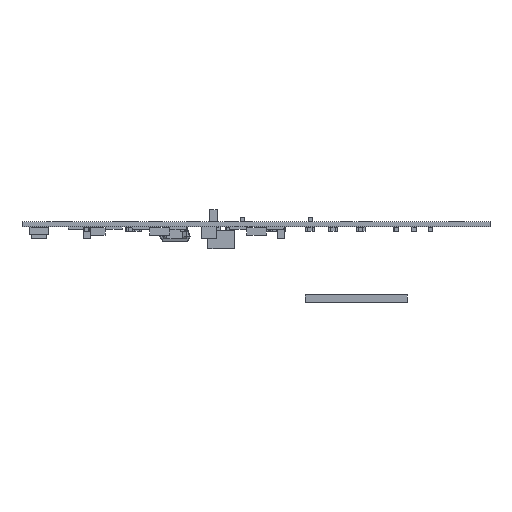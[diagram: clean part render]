
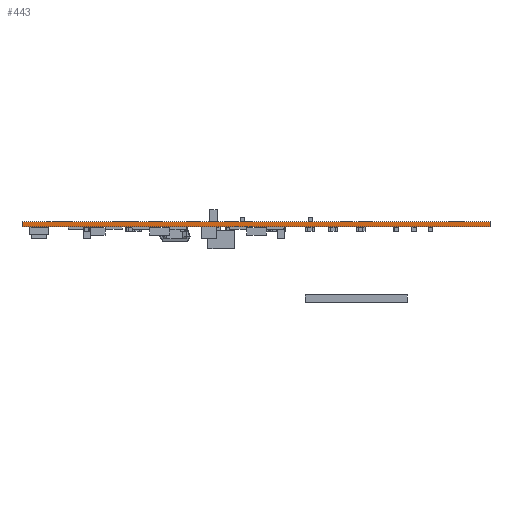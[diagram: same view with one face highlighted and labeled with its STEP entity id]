
A CAD part, left-side view. The second image highlights one B-rep face of the part: STEP entity #443.
In plain terms, the highlighted planar face has unit normal (-1, 0, 0).
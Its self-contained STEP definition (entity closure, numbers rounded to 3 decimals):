
#180 = EDGE_CURVE('',#181,#183,#185,.T.);
#181 = VERTEX_POINT('',#182);
#182 = CARTESIAN_POINT('',(-23.189,-19.677,0.));
#183 = VERTEX_POINT('',#184);
#184 = CARTESIAN_POINT('',(-23.189,-19.677,0.345));
#185 = SURFACE_CURVE('',#186,(#190,#202),.PCURVE_S1.);
#186 = LINE('',#187,#188);
#187 = CARTESIAN_POINT('',(-23.189,-19.677,0.));
#188 = VECTOR('',#189,1.);
#189 = DIRECTION('',(0.,0.,1.));
#190 = PCURVE('',#191,#196);
#191 = PLANE('',#192);
#192 = AXIS2_PLACEMENT_3D('',#193,#194,#195);
#193 = CARTESIAN_POINT('',(-23.189,-19.677,0.));
#194 = DIRECTION('',(0.,1.,0.));
#195 = DIRECTION('',(1.,0.,0.));
#196 = DEFINITIONAL_REPRESENTATION('',(#197),#201);
#197 = LINE('',#198,#199);
#198 = CARTESIAN_POINT('',(0.,0.));
#199 = VECTOR('',#200,1.);
#200 = DIRECTION('',(0.,-1.));
#201 = ( GEOMETRIC_REPRESENTATION_CONTEXT(2) 
PARAMETRIC_REPRESENTATION_CONTEXT() REPRESENTATION_CONTEXT('2D SPACE',''
  ) );
#202 = PCURVE('',#203,#208);
#203 = PLANE('',#204);
#204 = AXIS2_PLACEMENT_3D('',#205,#206,#207);
#205 = CARTESIAN_POINT('',(-23.189,11.318,0.));
#206 = DIRECTION('',(1.,0.,0.));
#207 = DIRECTION('',(0.,-1.,0.));
#208 = DEFINITIONAL_REPRESENTATION('',(#209),#213);
#209 = LINE('',#210,#211);
#210 = CARTESIAN_POINT('',(30.995,0.));
#211 = VECTOR('',#212,1.);
#212 = DIRECTION('',(0.,-1.));
#213 = ( GEOMETRIC_REPRESENTATION_CONTEXT(2) 
PARAMETRIC_REPRESENTATION_CONTEXT() REPRESENTATION_CONTEXT('2D SPACE',''
  ) );
#231 = PLANE('',#232);
#232 = AXIS2_PLACEMENT_3D('',#233,#234,#235);
#233 = CARTESIAN_POINT('',(-23.189,-19.677,0.345));
#234 = DIRECTION('',(0.,0.,-1.));
#235 = DIRECTION('',(-1.,0.,0.));
#285 = PLANE('',#286);
#286 = AXIS2_PLACEMENT_3D('',#287,#288,#289);
#287 = CARTESIAN_POINT('',(-23.189,-19.677,0.));
#288 = DIRECTION('',(0.,0.,-1.));
#289 = DIRECTION('',(-1.,0.,0.));
#340 = PLANE('',#341);
#341 = AXIS2_PLACEMENT_3D('',#342,#343,#344);
#342 = CARTESIAN_POINT('',(3.05,11.318,0.));
#343 = DIRECTION('',(0.,-1.,0.));
#344 = DIRECTION('',(-1.,0.,0.));
#378 = VERTEX_POINT('',#379);
#379 = CARTESIAN_POINT('',(-23.189,11.318,0.345));
#400 = EDGE_CURVE('',#401,#378,#403,.T.);
#401 = VERTEX_POINT('',#402);
#402 = CARTESIAN_POINT('',(-23.189,11.318,0.));
#403 = SURFACE_CURVE('',#404,(#408,#415),.PCURVE_S1.);
#404 = LINE('',#405,#406);
#405 = CARTESIAN_POINT('',(-23.189,11.318,0.));
#406 = VECTOR('',#407,1.);
#407 = DIRECTION('',(0.,0.,1.));
#408 = PCURVE('',#340,#409);
#409 = DEFINITIONAL_REPRESENTATION('',(#410),#414);
#410 = LINE('',#411,#412);
#411 = CARTESIAN_POINT('',(26.239,0.));
#412 = VECTOR('',#413,1.);
#413 = DIRECTION('',(0.,-1.));
#414 = ( GEOMETRIC_REPRESENTATION_CONTEXT(2) 
PARAMETRIC_REPRESENTATION_CONTEXT() REPRESENTATION_CONTEXT('2D SPACE',''
  ) );
#415 = PCURVE('',#203,#416);
#416 = DEFINITIONAL_REPRESENTATION('',(#417),#421);
#417 = LINE('',#418,#419);
#418 = CARTESIAN_POINT('',(0.,0.));
#419 = VECTOR('',#420,1.);
#420 = DIRECTION('',(0.,-1.));
#421 = ( GEOMETRIC_REPRESENTATION_CONTEXT(2) 
PARAMETRIC_REPRESENTATION_CONTEXT() REPRESENTATION_CONTEXT('2D SPACE',''
  ) );
#443 = ADVANCED_FACE('',(#444),#203,.F.);
#444 = FACE_BOUND('',#445,.F.);
#445 = EDGE_LOOP('',(#446,#447,#468,#469));
#446 = ORIENTED_EDGE('',*,*,#400,.T.);
#447 = ORIENTED_EDGE('',*,*,#448,.T.);
#448 = EDGE_CURVE('',#378,#183,#449,.T.);
#449 = SURFACE_CURVE('',#450,(#454,#461),.PCURVE_S1.);
#450 = LINE('',#451,#452);
#451 = CARTESIAN_POINT('',(-23.189,11.318,0.345));
#452 = VECTOR('',#453,1.);
#453 = DIRECTION('',(0.,-1.,0.));
#454 = PCURVE('',#203,#455);
#455 = DEFINITIONAL_REPRESENTATION('',(#456),#460);
#456 = LINE('',#457,#458);
#457 = CARTESIAN_POINT('',(0.,-0.345));
#458 = VECTOR('',#459,1.);
#459 = DIRECTION('',(1.,0.));
#460 = ( GEOMETRIC_REPRESENTATION_CONTEXT(2) 
PARAMETRIC_REPRESENTATION_CONTEXT() REPRESENTATION_CONTEXT('2D SPACE',''
  ) );
#461 = PCURVE('',#231,#462);
#462 = DEFINITIONAL_REPRESENTATION('',(#463),#467);
#463 = LINE('',#464,#465);
#464 = CARTESIAN_POINT('',(0.,30.995));
#465 = VECTOR('',#466,1.);
#466 = DIRECTION('',(0.,-1.));
#467 = ( GEOMETRIC_REPRESENTATION_CONTEXT(2) 
PARAMETRIC_REPRESENTATION_CONTEXT() REPRESENTATION_CONTEXT('2D SPACE',''
  ) );
#468 = ORIENTED_EDGE('',*,*,#180,.F.);
#469 = ORIENTED_EDGE('',*,*,#470,.F.);
#470 = EDGE_CURVE('',#401,#181,#471,.T.);
#471 = SURFACE_CURVE('',#472,(#476,#483),.PCURVE_S1.);
#472 = LINE('',#473,#474);
#473 = CARTESIAN_POINT('',(-23.189,11.318,0.));
#474 = VECTOR('',#475,1.);
#475 = DIRECTION('',(0.,-1.,0.));
#476 = PCURVE('',#203,#477);
#477 = DEFINITIONAL_REPRESENTATION('',(#478),#482);
#478 = LINE('',#479,#480);
#479 = CARTESIAN_POINT('',(0.,0.));
#480 = VECTOR('',#481,1.);
#481 = DIRECTION('',(1.,0.));
#482 = ( GEOMETRIC_REPRESENTATION_CONTEXT(2) 
PARAMETRIC_REPRESENTATION_CONTEXT() REPRESENTATION_CONTEXT('2D SPACE',''
  ) );
#483 = PCURVE('',#285,#484);
#484 = DEFINITIONAL_REPRESENTATION('',(#485),#489);
#485 = LINE('',#486,#487);
#486 = CARTESIAN_POINT('',(0.,30.995));
#487 = VECTOR('',#488,1.);
#488 = DIRECTION('',(0.,-1.));
#489 = ( GEOMETRIC_REPRESENTATION_CONTEXT(2) 
PARAMETRIC_REPRESENTATION_CONTEXT() REPRESENTATION_CONTEXT('2D SPACE',''
  ) );
